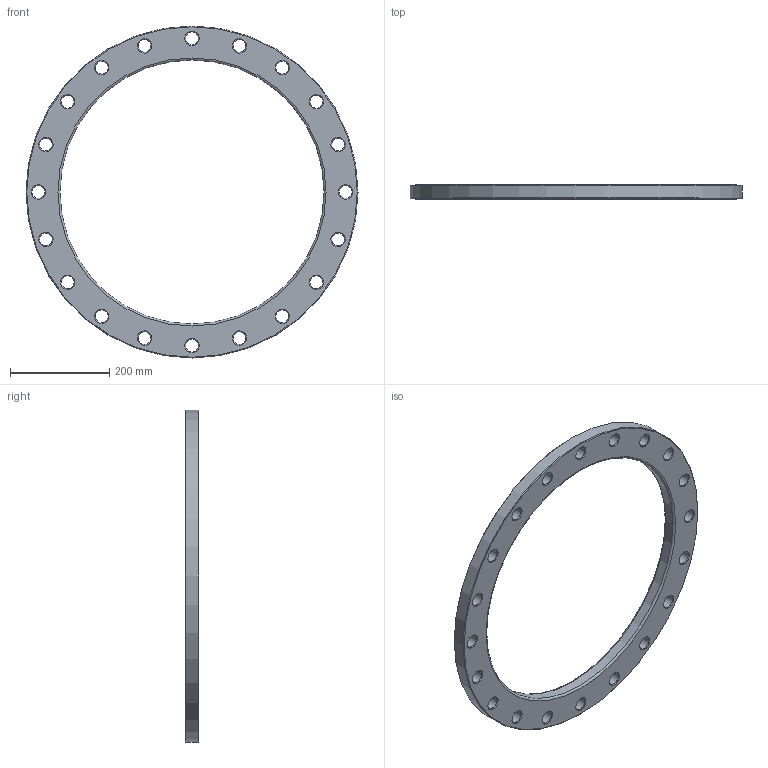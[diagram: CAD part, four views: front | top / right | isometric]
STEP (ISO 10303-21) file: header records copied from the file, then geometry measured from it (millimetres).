
FILE_DESCRIPTION(/* description */ ('Unknown'),/* implementation_level */ '2;1');
FILE_NAME(/* name */ 'FZ500B',/* time_stamp */ '2021-03-15T10:55:08+01:00',/* author */ ('Unknown'),/* organization */ ('Unknown'),/* preprocessor_version */ 'ST-DEVELOPER v16.7',/* originating_system */ 'Solid Edge',/* authorisation */ 'Unknown');
FILE_SCHEMA (('AUTOMOTIVE_DESIGN {1 0 10303 214 3 1 1}'));
Length unit declared in the file: millimetre
Products named in the file (1): FZ500B
Bounding box: 670 x 28 x 670 mm (x, y, z)
Volume: 3306979.4 mm3; surface area: 377016.5 mm2
Topology: 1 solids, 1 shells, 68 faces, 214 edges, 148 vertices
Faces by surface type: cone 42, cylinder 22, plane 2, torus 2
Full cylindrical faces by diameter (mm): 26 x20, 533 x1, 670 x1
Entity records: 1678 total; most frequent: DIRECTION 314, CARTESIAN_POINT 245, ORIENTED_EDGE 176, EDGE_LOOP 176, FACE_BOUND 176, AXIS2_PLACEMENT_3D 157, EDGE_CURVE 88, VERTEX_POINT 88
